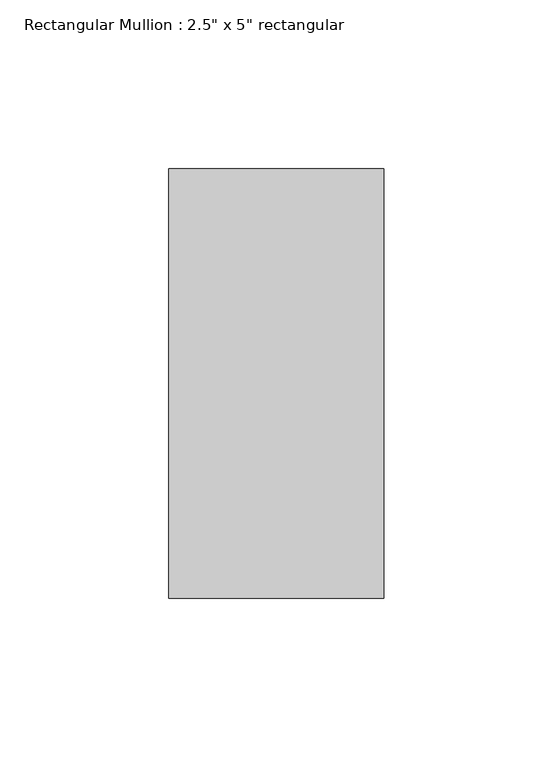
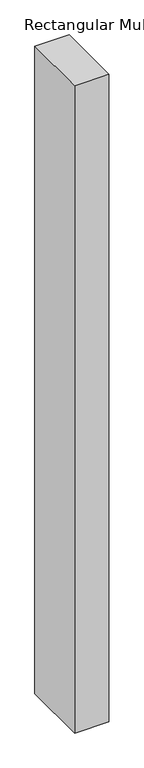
"""IFC4 building model written with IfcOpenShell, lengths in millimetres: member geometry."""

from ifc_helpers import new_model, si_unit, frame, origin, place, context, project, spatial, polyline, outline, extrude, source, transform, mapped, element, save


def member_bc6ee0d3(model_context):
    return source(origin(), model_context, "Body", "SweptSolid", [
        extrude(outline(polyline([(31.75, 63.5), (31.75, -63.5), (-31.75, -63.5), (-31.75, 63.5), (31.75, 63.5)])), frame((0.0, 0.0, -1264.5571429), z_axis=(0.0, 0.0, 1.0), x_axis=(1.0, 0.0, 0.0)), (0.0, 0.0, 1.0), 1264.5571429),
    ])


if __name__ == "__main__":
    model = new_model("IFC4")
    model_context = context("Model", 3, world=origin())
    ifc_project = project(units=[si_unit("LENGTHUNIT", "METRE", prefix="MILLI")], contexts=[model_context])
    site = spatial("IfcSite", under=ifc_project)
    building = spatial("IfcBuilding", under=site)
    placement = place(None, origin())
    member_shape = member_bc6ee0d3(model_context)
    element("IfcMember", 1, ObjectType="Rectangular Mullion : 2.5\" x 5\" rectangular", at=placement, inside=building, context=model_context, shape_type="MappedRepresentation", body=[
        mapped(member_shape, transform((0.0, 0.0, 0.0), x_axis=(1.0, 0.0, 0.0), y_axis=(0.0, 1.0, 0.0), z_axis=(0.0, 0.0, 1.0))),
    ])
    save(model, "model.ifc")
